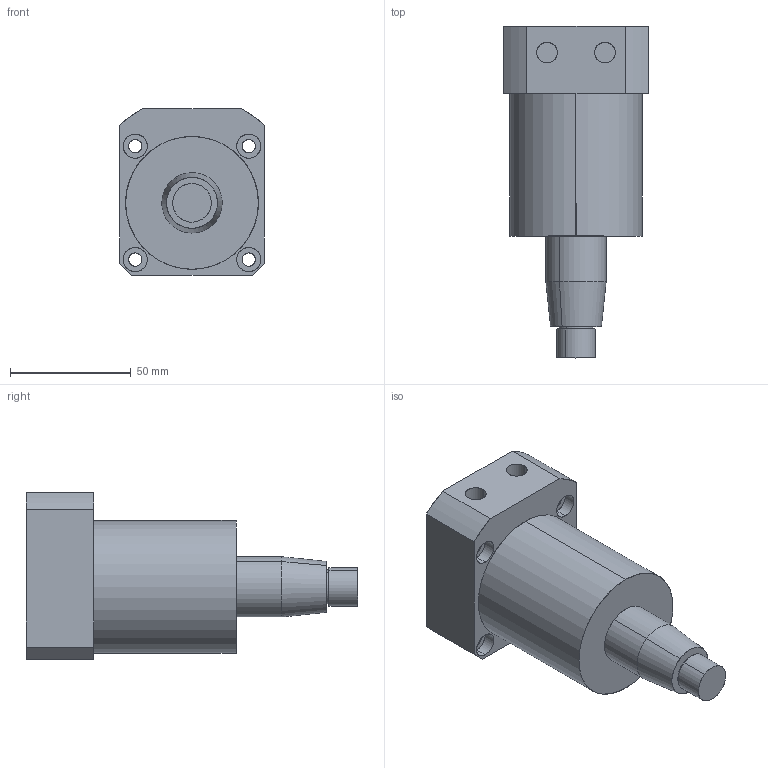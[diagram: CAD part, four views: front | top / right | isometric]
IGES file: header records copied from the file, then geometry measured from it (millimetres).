
Start section: SolidWorks IGES file using analytic representation for surfaces
Global section: file name: E:\karthik\CLASYS\Pneumatic Swing cylinders\Bottom cyl 0312\0312-0551\pneu 55.IGS; native system: SolidWorks 2010; preprocessor: SolidWorks 2010; author: karthik; date: 130914.165016; units: millimetre
Bounding box: 60 x 137.5 x 69 mm (x, y, z)
Surface area: 32825.6 mm2 (no closed solid volume)
Topology: 0 solids, 0 shells, 65 faces, 1308 edges, 1308 vertices
Faces by surface type: revolution 44, bspline 21
